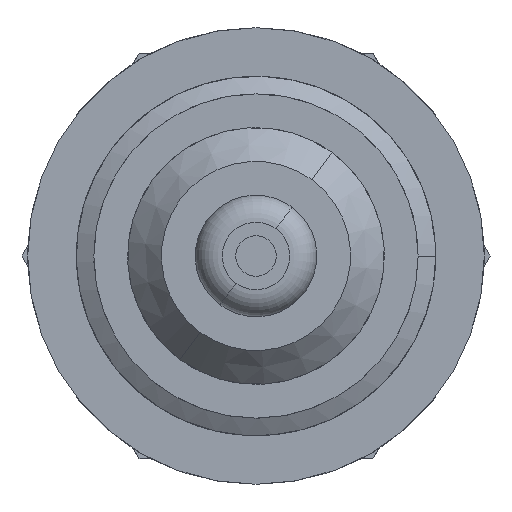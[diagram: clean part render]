
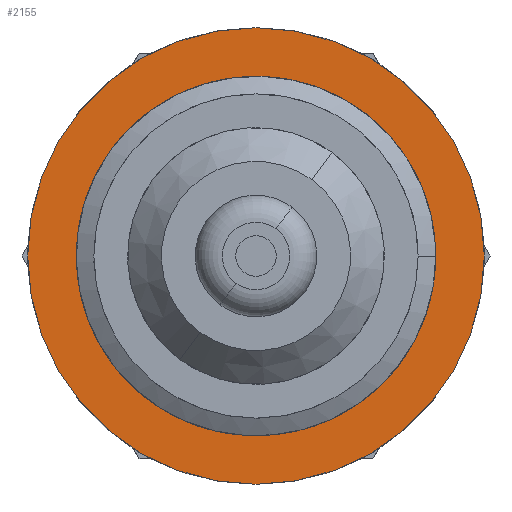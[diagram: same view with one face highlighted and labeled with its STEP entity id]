
A CAD part, front view. The second image highlights one B-rep face of the part: STEP entity #2155.
In plain terms, the highlighted planar face has unit normal (0, -1, 0).
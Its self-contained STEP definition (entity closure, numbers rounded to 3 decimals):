
#109 = DIRECTION ( 'NONE',  ( 0., -1., 0. ) ) ;
#162 = EDGE_CURVE ( 'NONE', #4523, #2795, #4061, .T. ) ;
#482 = CARTESIAN_POINT ( 'NONE',  ( 0., 0., -16.9 ) ) ;
#953 = DIRECTION ( 'NONE',  ( 0., 0., 1. ) ) ;
#1022 = CARTESIAN_POINT ( 'NONE',  ( 0., 0., 12. ) ) ;
#1209 = DIRECTION ( 'NONE',  ( 0., 0., 1. ) ) ;
#1369 = AXIS2_PLACEMENT_3D ( 'NONE', #1486, #2857, #953 ) ;
#1468 = CARTESIAN_POINT ( 'NONE',  ( 0., 0., 0. ) ) ;
#1486 = CARTESIAN_POINT ( 'NONE',  ( 0., 0., 0. ) ) ;
#1501 = CARTESIAN_POINT ( 'NONE',  ( 0., 0., 0. ) ) ;
#1507 = DIRECTION ( 'NONE',  ( 0., 0., 1. ) ) ;
#1648 = AXIS2_PLACEMENT_3D ( 'NONE', #1468, #2940, #5787 ) ;
#1682 = AXIS2_PLACEMENT_3D ( 'NONE', #3917, #1988, #1507 ) ;
#1707 = AXIS2_PLACEMENT_3D ( 'NONE', #2150, #4607, #1209 ) ;
#1988 = DIRECTION ( 'NONE',  ( 0., 1., 0. ) ) ;
#2003 = FACE_OUTER_BOUND ( 'NONE', #2852, .T. ) ;
#2150 = CARTESIAN_POINT ( 'NONE',  ( 0., 0., 0. ) ) ;
#2155 = ADVANCED_FACE ( 'NONE', ( #2003, #4455 ), #2836, .F. ) ;
#2231 = EDGE_CURVE ( 'NONE', #2795, #4523, #4827, .T. ) ;
#2615 = ORIENTED_EDGE ( 'NONE', *, *, #2877, .F. ) ;
#2652 = CARTESIAN_POINT ( 'NONE',  ( 0., 0., -12. ) ) ;
#2795 = VERTEX_POINT ( 'NONE', #482 ) ;
#2836 = PLANE ( 'NONE',  #1369 ) ;
#2852 = EDGE_LOOP ( 'NONE', ( #3038, #3844 ) ) ;
#2857 = DIRECTION ( 'NONE',  ( 0., 1., 0. ) ) ;
#2877 = EDGE_CURVE ( 'NONE', #5565, #6054, #3346, .T. ) ;
#2940 = DIRECTION ( 'NONE',  ( 0., -1., 0. ) ) ;
#3038 = ORIENTED_EDGE ( 'NONE', *, *, #2231, .F. ) ;
#3105 = CIRCLE ( 'NONE', #1648, 12. ) ;
#3346 = CIRCLE ( 'NONE', #5390, 12. ) ;
#3425 = DIRECTION ( 'NONE',  ( 0., 0., 1. ) ) ;
#3844 = ORIENTED_EDGE ( 'NONE', *, *, #162, .F. ) ;
#3849 = EDGE_LOOP ( 'NONE', ( #6112, #2615 ) ) ;
#3917 = CARTESIAN_POINT ( 'NONE',  ( 0., 0., 0. ) ) ;
#4061 = CIRCLE ( 'NONE', #1707, 16.9 ) ;
#4455 = FACE_BOUND ( 'NONE', #3849, .T. ) ;
#4489 = EDGE_CURVE ( 'NONE', #6054, #5565, #3105, .T. ) ;
#4523 = VERTEX_POINT ( 'NONE', #5276 ) ;
#4607 = DIRECTION ( 'NONE',  ( 0., 1., 0. ) ) ;
#4827 = CIRCLE ( 'NONE', #1682, 16.9 ) ;
#5276 = CARTESIAN_POINT ( 'NONE',  ( 0., 0., 16.9 ) ) ;
#5390 = AXIS2_PLACEMENT_3D ( 'NONE', #1501, #109, #3425 ) ;
#5565 = VERTEX_POINT ( 'NONE', #2652 ) ;
#5787 = DIRECTION ( 'NONE',  ( 0., 0., 1. ) ) ;
#6054 = VERTEX_POINT ( 'NONE', #1022 ) ;
#6112 = ORIENTED_EDGE ( 'NONE', *, *, #4489, .F. ) ;
